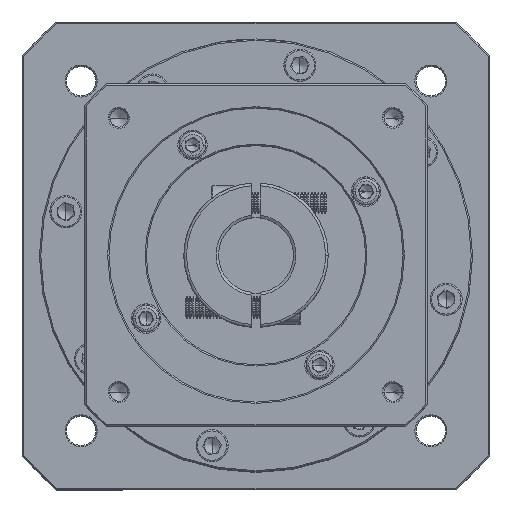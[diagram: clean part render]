
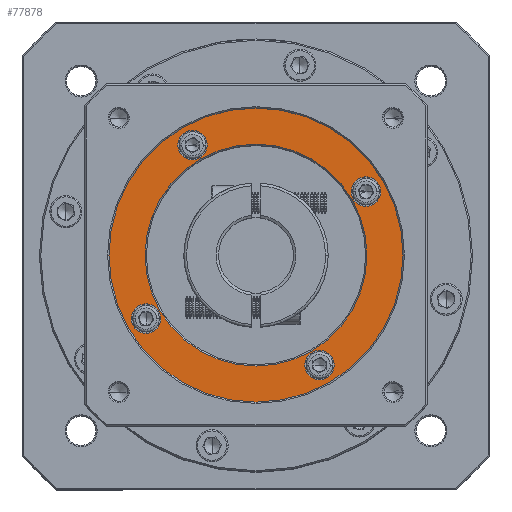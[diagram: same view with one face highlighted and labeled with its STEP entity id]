
A CAD part, top view. The second image highlights one B-rep face of the part: STEP entity #77878.
In plain terms, the highlighted planar face has unit normal (0, 0, 1).
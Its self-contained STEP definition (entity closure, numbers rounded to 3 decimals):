
#502 = DIRECTION ( 'NONE',  ( 0., 0., -1. ) ) ;
#1418 = CIRCLE ( 'NONE', #18016, 5.5 ) ;
#1675 = AXIS2_PLACEMENT_3D ( 'NONE', #37463, #102803, #95597 ) ;
#1977 = EDGE_CURVE ( 'NONE', #50829, #37271, #62385, .T. ) ;
#1983 = ORIENTED_EDGE ( 'NONE', *, *, #39900, .T. ) ;
#2905 = ORIENTED_EDGE ( 'NONE', *, *, #1977, .T. ) ;
#3345 = DIRECTION ( 'NONE',  ( 0., 0., 1. ) ) ;
#4072 = AXIS2_PLACEMENT_3D ( 'NONE', #71753, #38780, #39841 ) ;
#6133 = AXIS2_PLACEMENT_3D ( 'NONE', #34567, #51384, #10132 ) ;
#7928 = CIRCLE ( 'NONE', #42891, 5.5 ) ;
#9357 = AXIS2_PLACEMENT_3D ( 'NONE', #18642, #35159, #51276 ) ;
#9652 = ORIENTED_EDGE ( 'NONE', *, *, #43850, .T. ) ;
#10132 = DIRECTION ( 'NONE',  ( 1., 0., 0. ) ) ;
#11650 = AXIS2_PLACEMENT_3D ( 'NONE', #78502, #29418, #77442 ) ;
#13601 = EDGE_CURVE ( 'NONE', #33552, #31018, #1418, .T. ) ;
#16207 = FACE_BOUND ( 'NONE', #50579, .T. ) ;
#16358 = CARTESIAN_POINT ( 'NONE',  ( 71.356, 95.728, 38.32 ) ) ;
#16362 = DIRECTION ( 'NONE',  ( 1., 0., 0. ) ) ;
#16671 = CARTESIAN_POINT ( 'NONE',  ( 11.969, 113.114, 38.32 ) ) ;
#16721 = AXIS2_PLACEMENT_3D ( 'NONE', #106670, #99796, #82931 ) ;
#17666 = CARTESIAN_POINT ( 'NONE',  ( 88.742, 160.614, 38.32 ) ) ;
#18016 = AXIS2_PLACEMENT_3D ( 'NONE', #34267, #102086, #28521 ) ;
#18642 = CARTESIAN_POINT ( 'NONE',  ( 53.106, 136.864, 38.32 ) ) ;
#20254 = DIRECTION ( 'NONE',  ( 1., 0., 0. ) ) ;
#21341 = FACE_BOUND ( 'NONE', #90349, .T. ) ;
#22166 = CIRCLE ( 'NONE', #74467, 5.5 ) ;
#22629 = CIRCLE ( 'NONE', #80406, 41.5 ) ;
#23129 = CARTESIAN_POINT ( 'NONE',  ( 6.469, 113.114, 38.32 ) ) ;
#24106 = DIRECTION ( 'NONE',  ( 0., 0., -1. ) ) ;
#25235 = FACE_BOUND ( 'NONE', #104843, .T. ) ;
#26480 = VERTEX_POINT ( 'NONE', #72055 ) ;
#27062 = EDGE_CURVE ( 'NONE', #80026, #90798, #22629, .T. ) ;
#27114 = DIRECTION ( 'NONE',  ( 1., 0., 0. ) ) ;
#27185 = CARTESIAN_POINT ( 'NONE',  ( 108.106, 136.864, 38.32 ) ) ;
#27922 = CIRCLE ( 'NONE', #9357, 55. ) ;
#28521 = DIRECTION ( 'NONE',  ( 1., 0., 0. ) ) ;
#29418 = DIRECTION ( 'NONE',  ( 0., 0., -1. ) ) ;
#30263 = CARTESIAN_POINT ( 'NONE',  ( 23.856, 178., 38.32 ) ) ;
#31018 = VERTEX_POINT ( 'NONE', #30263 ) ;
#31656 = CARTESIAN_POINT ( 'NONE',  ( 76.856, 95.728, 38.32 ) ) ;
#33552 = VERTEX_POINT ( 'NONE', #101949 ) ;
#34267 = CARTESIAN_POINT ( 'NONE',  ( 29.356, 178., 38.32 ) ) ;
#34567 = CARTESIAN_POINT ( 'NONE',  ( 94.242, 160.614, 38.32 ) ) ;
#34584 = ORIENTED_EDGE ( 'NONE', *, *, #90400, .T. ) ;
#35159 = DIRECTION ( 'NONE',  ( 0., 0., 1. ) ) ;
#37271 = VERTEX_POINT ( 'NONE', #27185 ) ;
#37463 = CARTESIAN_POINT ( 'NONE',  ( 53.106, 136.864, 38.32 ) ) ;
#37706 = VERTEX_POINT ( 'NONE', #84772 ) ;
#38780 = DIRECTION ( 'NONE',  ( 0., 0., -1. ) ) ;
#39281 = FACE_BOUND ( 'NONE', #99154, .T. ) ;
#39841 = DIRECTION ( 'NONE',  ( 1., 0., 0. ) ) ;
#39848 = DIRECTION ( 'NONE',  ( 1., 0., 0. ) ) ;
#39900 = EDGE_CURVE ( 'NONE', #37271, #50829, #27922, .T. ) ;
#41512 = DIRECTION ( 'NONE',  ( 1., 0., 0. ) ) ;
#42891 = AXIS2_PLACEMENT_3D ( 'NONE', #86289, #53610, #20254 ) ;
#43690 = EDGE_CURVE ( 'NONE', #26480, #53652, #22166, .T. ) ;
#43850 = EDGE_CURVE ( 'NONE', #31018, #33552, #7928, .T. ) ;
#45497 = VERTEX_POINT ( 'NONE', #65117 ) ;
#45722 = PLANE ( 'NONE',  #1675 ) ;
#46132 = VERTEX_POINT ( 'NONE', #17666 ) ;
#46213 = CIRCLE ( 'NONE', #50764, 5.5 ) ;
#49724 = DIRECTION ( 'NONE',  ( 0., 0., -1. ) ) ;
#50254 = ORIENTED_EDGE ( 'NONE', *, *, #80160, .T. ) ;
#50579 = EDGE_LOOP ( 'NONE', ( #57938, #9652 ) ) ;
#50764 = AXIS2_PLACEMENT_3D ( 'NONE', #16671, #74761, #74423 ) ;
#50829 = VERTEX_POINT ( 'NONE', #93257 ) ;
#51276 = DIRECTION ( 'NONE',  ( 1., 0., 0. ) ) ;
#51384 = DIRECTION ( 'NONE',  ( 0., 0., -1. ) ) ;
#52788 = CIRCLE ( 'NONE', #11650, 41.5 ) ;
#53610 = DIRECTION ( 'NONE',  ( 0., 0., -1. ) ) ;
#53652 = VERTEX_POINT ( 'NONE', #16358 ) ;
#54109 = CIRCLE ( 'NONE', #16721, 5.5 ) ;
#55416 = EDGE_CURVE ( 'NONE', #53652, #26480, #73686, .T. ) ;
#57938 = ORIENTED_EDGE ( 'NONE', *, *, #13601, .T. ) ;
#59431 = ORIENTED_EDGE ( 'NONE', *, *, #105080, .T. ) ;
#61362 = CIRCLE ( 'NONE', #6133, 5.5 ) ;
#62385 = CIRCLE ( 'NONE', #100605, 55. ) ;
#64216 = CARTESIAN_POINT ( 'NONE',  ( 94.606, 136.864, 38.32 ) ) ;
#64539 = ORIENTED_EDGE ( 'NONE', *, *, #43690, .T. ) ;
#65117 = CARTESIAN_POINT ( 'NONE',  ( 99.742, 160.614, 38.32 ) ) ;
#65851 = CARTESIAN_POINT ( 'NONE',  ( 76.856, 95.728, 38.32 ) ) ;
#66213 = FACE_BOUND ( 'NONE', #89024, .T. ) ;
#71753 = CARTESIAN_POINT ( 'NONE',  ( 11.969, 113.114, 38.32 ) ) ;
#72055 = CARTESIAN_POINT ( 'NONE',  ( 82.356, 95.728, 38.32 ) ) ;
#73686 = CIRCLE ( 'NONE', #87640, 5.5 ) ;
#73759 = CARTESIAN_POINT ( 'NONE',  ( 53.106, 136.864, 38.32 ) ) ;
#74423 = DIRECTION ( 'NONE',  ( 1., 0., 0. ) ) ;
#74467 = AXIS2_PLACEMENT_3D ( 'NONE', #65851, #502, #41512 ) ;
#74761 = DIRECTION ( 'NONE',  ( 0., 0., -1. ) ) ;
#77442 = DIRECTION ( 'NONE',  ( 1., 0., 0. ) ) ;
#77878 = ADVANCED_FACE ( 'NONE', ( #90694, #25235, #21341, #66213, #16207, #39281 ), #45722, .T. ) ;
#78502 = CARTESIAN_POINT ( 'NONE',  ( 53.106, 136.864, 38.32 ) ) ;
#80026 = VERTEX_POINT ( 'NONE', #89225 ) ;
#80160 = EDGE_CURVE ( 'NONE', #103683, #37706, #46213, .T. ) ;
#80406 = AXIS2_PLACEMENT_3D ( 'NONE', #73759, #49724, #16362 ) ;
#82931 = DIRECTION ( 'NONE',  ( 1., 0., 0. ) ) ;
#84772 = CARTESIAN_POINT ( 'NONE',  ( 17.469, 113.114, 38.32 ) ) ;
#85552 = CARTESIAN_POINT ( 'NONE',  ( 53.106, 136.864, 38.32 ) ) ;
#86289 = CARTESIAN_POINT ( 'NONE',  ( 29.356, 178., 38.32 ) ) ;
#87640 = AXIS2_PLACEMENT_3D ( 'NONE', #31656, #24106, #39848 ) ;
#89024 = EDGE_LOOP ( 'NONE', ( #64539, #92488 ) ) ;
#89225 = CARTESIAN_POINT ( 'NONE',  ( 11.606, 136.864, 38.32 ) ) ;
#90102 = ORIENTED_EDGE ( 'NONE', *, *, #95719, .T. ) ;
#90349 = EDGE_LOOP ( 'NONE', ( #34584, #59431 ) ) ;
#90400 = EDGE_CURVE ( 'NONE', #45497, #46132, #61362, .T. ) ;
#90694 = FACE_OUTER_BOUND ( 'NONE', #92868, .T. ) ;
#90798 = VERTEX_POINT ( 'NONE', #64216 ) ;
#92488 = ORIENTED_EDGE ( 'NONE', *, *, #55416, .T. ) ;
#92868 = EDGE_LOOP ( 'NONE', ( #1983, #2905 ) ) ;
#93257 = CARTESIAN_POINT ( 'NONE',  ( -1.894, 136.864, 38.32 ) ) ;
#93657 = CIRCLE ( 'NONE', #4072, 5.5 ) ;
#95597 = DIRECTION ( 'NONE',  ( 1., 0., 0. ) ) ;
#95719 = EDGE_CURVE ( 'NONE', #90798, #80026, #52788, .T. ) ;
#99154 = EDGE_LOOP ( 'NONE', ( #104409, #50254 ) ) ;
#99796 = DIRECTION ( 'NONE',  ( 0., 0., -1. ) ) ;
#100605 = AXIS2_PLACEMENT_3D ( 'NONE', #85552, #3345, #27114 ) ;
#101949 = CARTESIAN_POINT ( 'NONE',  ( 34.856, 178., 38.32 ) ) ;
#102086 = DIRECTION ( 'NONE',  ( 0., 0., -1. ) ) ;
#102313 = EDGE_CURVE ( 'NONE', #37706, #103683, #93657, .T. ) ;
#102803 = DIRECTION ( 'NONE',  ( 0., 0., 1. ) ) ;
#103683 = VERTEX_POINT ( 'NONE', #23129 ) ;
#104409 = ORIENTED_EDGE ( 'NONE', *, *, #102313, .T. ) ;
#104843 = EDGE_LOOP ( 'NONE', ( #90102, #105248 ) ) ;
#105080 = EDGE_CURVE ( 'NONE', #46132, #45497, #54109, .T. ) ;
#105248 = ORIENTED_EDGE ( 'NONE', *, *, #27062, .T. ) ;
#106670 = CARTESIAN_POINT ( 'NONE',  ( 94.242, 160.614, 38.32 ) ) ;
